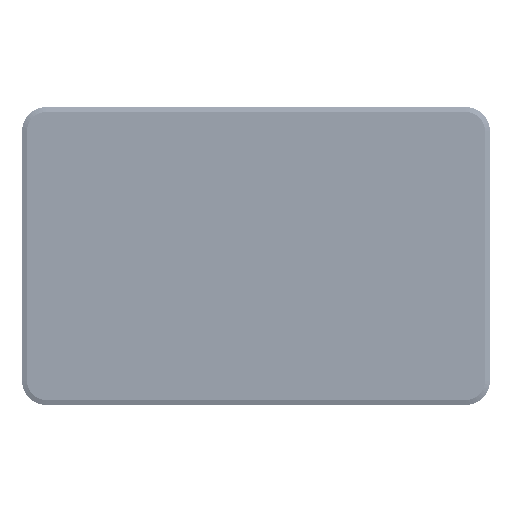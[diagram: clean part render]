
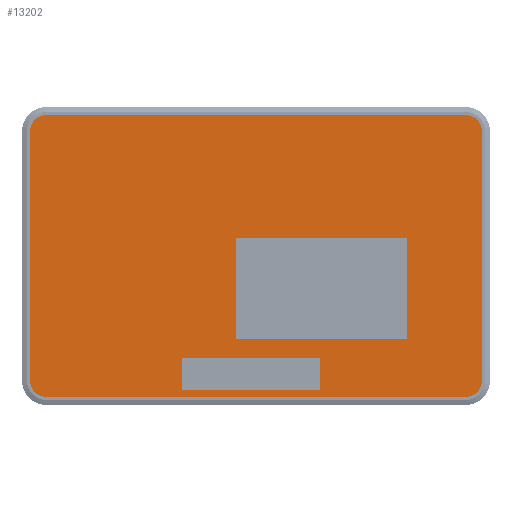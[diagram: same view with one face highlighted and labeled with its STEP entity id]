
A CAD part, front view. The second image highlights one B-rep face of the part: STEP entity #13202.
In plain terms, the highlighted planar face has unit normal (0, -1, 0).
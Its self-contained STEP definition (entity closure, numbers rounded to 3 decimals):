
#12746=CARTESIAN_POINT('',(-129.5,0.,77.));
#12747=DIRECTION('',(0.,1.,0.));
#12748=DIRECTION('',(-1.,0.,0.));
#12749=AXIS2_PLACEMENT_3D('',#12746,#12747,#12748);
#12751=CARTESIAN_POINT('',(129.5,0.,77.));
#12752=DIRECTION('',(0.,1.,0.));
#12753=DIRECTION('',(0.,0.,1.));
#12754=AXIS2_PLACEMENT_3D('',#12751,#12752,#12753);
#12756=CARTESIAN_POINT('',(129.5,0.,-77.));
#12757=DIRECTION('',(0.,1.,0.));
#12758=DIRECTION('',(1.,0.,0.));
#12759=AXIS2_PLACEMENT_3D('',#12756,#12757,#12758);
#12761=CARTESIAN_POINT('',(-129.5,0.,-77.));
#12762=DIRECTION('',(0.,1.,0.));
#12763=DIRECTION('',(0.,0.,-1.));
#12764=AXIS2_PLACEMENT_3D('',#12761,#12762,#12763);
#12774=DIRECTION('',(0.,0.,-1.));
#12775=VECTOR('',#12774,154.);
#12776=CARTESIAN_POINT('',(-139.5,0.,77.));
#12777=LINE('',#12776,#12775);
#12786=DIRECTION('',(1.,0.,0.));
#12787=VECTOR('',#12786,259.);
#12788=CARTESIAN_POINT('',(-129.5,0.,-87.));
#12789=LINE('',#12788,#12787);
#12798=DIRECTION('',(0.,0.,1.));
#12799=VECTOR('',#12798,154.);
#12800=CARTESIAN_POINT('',(139.5,0.,-77.));
#12801=LINE('',#12800,#12799);
#12810=DIRECTION('',(-1.,0.,0.));
#12811=VECTOR('',#12810,259.);
#12812=CARTESIAN_POINT('',(129.5,0.,87.));
#12813=LINE('',#12812,#12811);
#13048=DIRECTION('',(0.,0.,1.));
#13049=VECTOR('',#13048,62.56);
#13050=CARTESIAN_POINT('',(-12.44,0.,-51.3));
#13051=LINE('',#13050,#13049);
#13056=DIRECTION('',(1.,0.,0.));
#13057=VECTOR('',#13056,105.84);
#13058=CARTESIAN_POINT('',(-12.44,0.,11.26));
#13059=LINE('',#13058,#13057);
#13064=DIRECTION('',(0.,0.,-1.));
#13065=VECTOR('',#13064,62.56);
#13066=CARTESIAN_POINT('',(93.4,0.,11.26));
#13067=LINE('',#13066,#13065);
#13072=DIRECTION('',(-1.,0.,0.));
#13073=VECTOR('',#13072,105.84);
#13074=CARTESIAN_POINT('',(93.4,0.,-51.3));
#13075=LINE('',#13074,#13073);
#13080=CARTESIAN_POINT('',(-139.5,0.,77.));
#13081=CARTESIAN_POINT('',(-129.5,0.,87.));
#13082=VERTEX_POINT('',#13080);
#13083=VERTEX_POINT('',#13081);
#13084=CARTESIAN_POINT('',(129.5,0.,87.));
#13085=VERTEX_POINT('',#13084);
#13086=CARTESIAN_POINT('',(139.5,0.,77.));
#13087=VERTEX_POINT('',#13086);
#13088=CARTESIAN_POINT('',(139.5,0.,-77.));
#13089=VERTEX_POINT('',#13088);
#13090=CARTESIAN_POINT('',(129.5,0.,-87.));
#13091=VERTEX_POINT('',#13090);
#13092=CARTESIAN_POINT('',(-129.5,0.,-87.));
#13093=VERTEX_POINT('',#13092);
#13094=CARTESIAN_POINT('',(-139.5,0.,-77.));
#13095=VERTEX_POINT('',#13094);
#13096=CARTESIAN_POINT('',(-12.44,0.,-51.3));
#13097=CARTESIAN_POINT('',(-12.44,0.,11.26));
#13098=VERTEX_POINT('',#13096);
#13099=VERTEX_POINT('',#13097);
#13100=CARTESIAN_POINT('',(93.4,0.,-51.3));
#13101=VERTEX_POINT('',#13100);
#13102=CARTESIAN_POINT('',(93.4,0.,11.26));
#13103=VERTEX_POINT('',#13102);
#13169=CARTESIAN_POINT('',(0.,0.,0.));
#13170=DIRECTION('',(0.,1.,0.));
#13171=DIRECTION('',(1.,0.,0.));
#13172=AXIS2_PLACEMENT_3D('',#13169,#13170,#13171);
#13173=PLANE('',#13172);
#13175=ORIENTED_EDGE('',*,*,#13174,.T.);
#13177=ORIENTED_EDGE('',*,*,#13176,.F.);
#13179=ORIENTED_EDGE('',*,*,#13178,.T.);
#13181=ORIENTED_EDGE('',*,*,#13180,.F.);
#13183=ORIENTED_EDGE('',*,*,#13182,.T.);
#13185=ORIENTED_EDGE('',*,*,#13184,.F.);
#13187=ORIENTED_EDGE('',*,*,#13186,.T.);
#13189=ORIENTED_EDGE('',*,*,#13188,.F.);
#13190=EDGE_LOOP('',(#13175,#13177,#13179,#13181,#13183,#13185,#13187,#13189));
#13191=FACE_OUTER_BOUND('',#13190,.F.);
#13193=ORIENTED_EDGE('',*,*,#13192,.F.);
#13195=ORIENTED_EDGE('',*,*,#13194,.F.);
#13197=ORIENTED_EDGE('',*,*,#13196,.F.);
#13199=ORIENTED_EDGE('',*,*,#13198,.F.);
#13200=EDGE_LOOP('',(#13193,#13195,#13197,#13199));
#13201=FACE_BOUND('',#13200,.F.);
#13202=ADVANCED_FACE('',(#13191,#13201),#13173,.F.);
#12750=CIRCLE('',#12749,10.);
#12755=CIRCLE('',#12754,10.);
#12760=CIRCLE('',#12759,10.);
#12765=CIRCLE('',#12764,10.);
#13174=EDGE_CURVE('',#13082,#13083,#12750,.T.);
#13176=EDGE_CURVE('',#13085,#13083,#12813,.T.);
#13178=EDGE_CURVE('',#13085,#13087,#12755,.T.);
#13180=EDGE_CURVE('',#13089,#13087,#12801,.T.);
#13182=EDGE_CURVE('',#13089,#13091,#12760,.T.);
#13184=EDGE_CURVE('',#13093,#13091,#12789,.T.);
#13186=EDGE_CURVE('',#13093,#13095,#12765,.T.);
#13188=EDGE_CURVE('',#13082,#13095,#12777,.T.);
#13192=EDGE_CURVE('',#13098,#13099,#13051,.T.);
#13194=EDGE_CURVE('',#13101,#13098,#13075,.T.);
#13196=EDGE_CURVE('',#13103,#13101,#13067,.T.);
#13198=EDGE_CURVE('',#13099,#13103,#13059,.T.);
